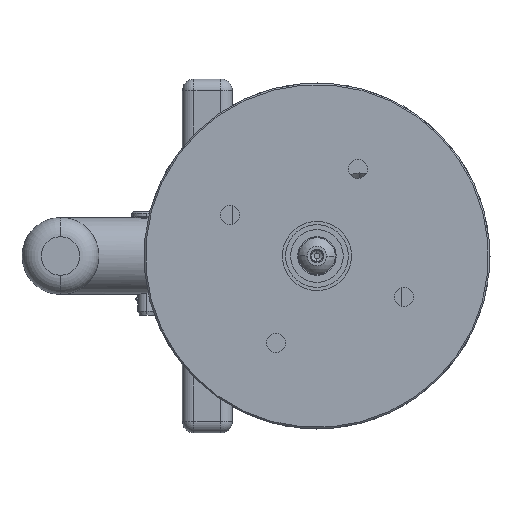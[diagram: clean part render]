
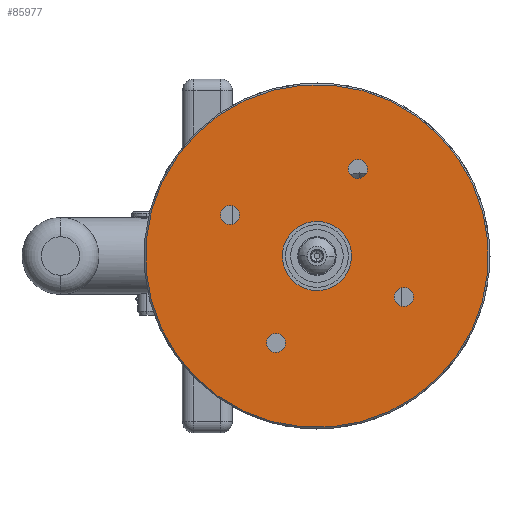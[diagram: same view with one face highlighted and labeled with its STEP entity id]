
A CAD part, left-side view. The second image highlights one B-rep face of the part: STEP entity #85977.
In plain terms, the highlighted planar face has unit normal (-1, 0, 0).
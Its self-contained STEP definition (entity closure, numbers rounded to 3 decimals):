
#420 = CARTESIAN_POINT ( 'NONE',  ( -48.8, -0.615, -10.657 ) ) ;
#646 = DIRECTION ( 'NONE',  ( 0., 0.426, -0.905 ) ) ;
#1056 = DIRECTION ( 'NONE',  ( -1., 0., 0. ) ) ;
#1498 = AXIS2_PLACEMENT_3D ( 'NONE', #35845, #1056, #42383 ) ;
#1545 = CARTESIAN_POINT ( 'NONE',  ( -48.8, 11.343, 22.615 ) ) ;
#1634 = ORIENTED_EDGE ( 'NONE', *, *, #85178, .F. ) ;
#3461 = DIRECTION ( 'NONE',  ( 0., 0.426, -0.905 ) ) ;
#3731 = CIRCLE ( 'NONE', #5201, 44.6 ) ;
#4034 = FACE_OUTER_BOUND ( 'NONE', #77536, .T. ) ;
#5201 = AXIS2_PLACEMENT_3D ( 'NONE', #24024, #79729, #8954 ) ;
#5574 = ORIENTED_EDGE ( 'NONE', *, *, #58549, .F. ) ;
#6891 = DIRECTION ( 'NONE',  ( -1., 0., 0. ) ) ;
#7023 = CIRCLE ( 'NONE', #91669, 44.6 ) ;
#7147 = DIRECTION ( 'NONE',  ( -1., 0., 0. ) ) ;
#7427 = CARTESIAN_POINT ( 'NONE',  ( -48.8, 22., 0. ) ) ;
#8954 = DIRECTION ( 'NONE',  ( 0., 0.426, -0.905 ) ) ;
#9497 = DIRECTION ( 'NONE',  ( 0., -0.426, 0.905 ) ) ;
#9649 = DIRECTION ( 'NONE',  ( -1., 0., 0. ) ) ;
#11881 = ORIENTED_EDGE ( 'NONE', *, *, #56253, .F. ) ;
#12595 = CARTESIAN_POINT ( 'NONE',  ( -48.8, 41.011, -40.345 ) ) ;
#16872 = CARTESIAN_POINT ( 'NONE',  ( -48.8, 22., 0. ) ) ;
#19451 = AXIS2_PLACEMENT_3D ( 'NONE', #88618, #46150, #46477 ) ;
#19821 = VERTEX_POINT ( 'NONE', #88514 ) ;
#21790 = VERTEX_POINT ( 'NONE', #72004 ) ;
#22771 = FACE_BOUND ( 'NONE', #68706, .T. ) ;
#23861 = CARTESIAN_POINT ( 'NONE',  ( -48.8, 11.343, 22.615 ) ) ;
#24024 = CARTESIAN_POINT ( 'NONE',  ( -48.8, 22., 0. ) ) ;
#26224 = EDGE_CURVE ( 'NONE', #67474, #36306, #49209, .T. ) ;
#26541 = VERTEX_POINT ( 'NONE', #73810 ) ;
#28024 = ORIENTED_EDGE ( 'NONE', *, *, #70487, .F. ) ;
#29039 = CARTESIAN_POINT ( 'NONE',  ( -48.8, 22., 0. ) ) ;
#30135 = DIRECTION ( 'NONE',  ( 1., 0., 0. ) ) ;
#30738 = ORIENTED_EDGE ( 'NONE', *, *, #61061, .F. ) ;
#30861 = EDGE_LOOP ( 'NONE', ( #11881, #30738 ) ) ;
#30923 = DIRECTION ( 'NONE',  ( -1., 0., 0. ) ) ;
#31772 = AXIS2_PLACEMENT_3D ( 'NONE', #79445, #44430, #64537 ) ;
#34487 = CARTESIAN_POINT ( 'NONE',  ( -48.8, 44.615, 10.657 ) ) ;
#35128 = CARTESIAN_POINT ( 'NONE',  ( -48.8, 31.591, -20.353 ) ) ;
#35729 = DIRECTION ( 'NONE',  ( 0., 0.426, -0.905 ) ) ;
#35730 = CARTESIAN_POINT ( 'NONE',  ( -48.8, 43.549, 12.918 ) ) ;
#35830 = CARTESIAN_POINT ( 'NONE',  ( -48.8, 2.989, 40.345 ) ) ;
#35845 = CARTESIAN_POINT ( 'NONE',  ( -48.8, -0.615, -10.657 ) ) ;
#36253 = VERTEX_POINT ( 'NONE', #41905 ) ;
#36306 = VERTEX_POINT ( 'NONE', #51178 ) ;
#37298 = AXIS2_PLACEMENT_3D ( 'NONE', #7427, #7147, #35729 ) ;
#38706 = CIRCLE ( 'NONE', #85952, 9. ) ;
#38790 = ORIENTED_EDGE ( 'NONE', *, *, #46751, .T. ) ;
#39289 = EDGE_CURVE ( 'NONE', #71977, #62029, #3731, .T. ) ;
#40157 = AXIS2_PLACEMENT_3D ( 'NONE', #1545, #65458, #646 ) ;
#41495 = FACE_BOUND ( 'NONE', #74045, .T. ) ;
#41905 = CARTESIAN_POINT ( 'NONE',  ( -48.8, 12.409, 20.353 ) ) ;
#42383 = DIRECTION ( 'NONE',  ( 0., 0.426, -0.905 ) ) ;
#42916 = EDGE_CURVE ( 'NONE', #69197, #26541, #66913, .T. ) ;
#43226 = DIRECTION ( 'NONE',  ( 0., 0.426, -0.905 ) ) ;
#44430 = DIRECTION ( 'NONE',  ( -1., 0., 0. ) ) ;
#45032 = CARTESIAN_POINT ( 'NONE',  ( -48.8, 33.722, -24.876 ) ) ;
#45765 = CIRCLE ( 'NONE', #1498, 2.5 ) ;
#45850 = CIRCLE ( 'NONE', #19451, 2.5 ) ;
#46044 = DIRECTION ( 'NONE',  ( 0., -0.426, 0.905 ) ) ;
#46150 = DIRECTION ( 'NONE',  ( -1., 0., 0. ) ) ;
#46477 = DIRECTION ( 'NONE',  ( 0., 0.426, -0.905 ) ) ;
#46512 = ORIENTED_EDGE ( 'NONE', *, *, #87115, .F. ) ;
#46751 = EDGE_CURVE ( 'NONE', #26541, #69197, #38706, .T. ) ;
#47631 = CARTESIAN_POINT ( 'NONE',  ( -48.8, -1.681, -8.395 ) ) ;
#48446 = DIRECTION ( 'NONE',  ( 0., 0.426, -0.905 ) ) ;
#49209 = CIRCLE ( 'NONE', #66892, 2.5 ) ;
#50008 = PLANE ( 'NONE',  #37298 ) ;
#51043 = DIRECTION ( 'NONE',  ( 0., 0.426, -0.905 ) ) ;
#51178 = CARTESIAN_POINT ( 'NONE',  ( -48.8, 45.681, 8.395 ) ) ;
#52808 = CIRCLE ( 'NONE', #40157, 2.5 ) ;
#56253 = EDGE_CURVE ( 'NONE', #19821, #88111, #45765, .T. ) ;
#58549 = EDGE_CURVE ( 'NONE', #36306, #67474, #45850, .T. ) ;
#58589 = EDGE_LOOP ( 'NONE', ( #1634, #28024 ) ) ;
#59001 = DIRECTION ( 'NONE',  ( 1., 0., 0. ) ) ;
#60146 = DIRECTION ( 'NONE',  ( -1., 0., 0. ) ) ;
#60782 = DIRECTION ( 'NONE',  ( 0., 0.426, -0.905 ) ) ;
#61061 = EDGE_CURVE ( 'NONE', #88111, #19821, #71814, .T. ) ;
#61068 = CIRCLE ( 'NONE', #72444, 2.5 ) ;
#61082 = CARTESIAN_POINT ( 'NONE',  ( -48.8, 32.657, -22.615 ) ) ;
#61491 = VERTEX_POINT ( 'NONE', #35128 ) ;
#62029 = VERTEX_POINT ( 'NONE', #12595 ) ;
#64025 = EDGE_LOOP ( 'NONE', ( #5574, #85440 ) ) ;
#64537 = DIRECTION ( 'NONE',  ( 0., 0.426, -0.905 ) ) ;
#64787 = EDGE_CURVE ( 'NONE', #62029, #71977, #7023, .T. ) ;
#65458 = DIRECTION ( 'NONE',  ( -1., 0., 0. ) ) ;
#66892 = AXIS2_PLACEMENT_3D ( 'NONE', #34487, #69799, #48446 ) ;
#66913 = CIRCLE ( 'NONE', #80235, 9. ) ;
#67016 = FACE_BOUND ( 'NONE', #58589, .T. ) ;
#67474 = VERTEX_POINT ( 'NONE', #35730 ) ;
#68706 = EDGE_LOOP ( 'NONE', ( #88513, #38790 ) ) ;
#69197 = VERTEX_POINT ( 'NONE', #86315 ) ;
#69799 = DIRECTION ( 'NONE',  ( -1., 0., 0. ) ) ;
#70487 = EDGE_CURVE ( 'NONE', #61491, #72505, #91187, .T. ) ;
#71814 = CIRCLE ( 'NONE', #78962, 2.5 ) ;
#71977 = VERTEX_POINT ( 'NONE', #35830 ) ;
#72004 = CARTESIAN_POINT ( 'NONE',  ( -48.8, 10.278, 24.876 ) ) ;
#72444 = AXIS2_PLACEMENT_3D ( 'NONE', #23861, #30923, #51043 ) ;
#72505 = VERTEX_POINT ( 'NONE', #45032 ) ;
#73810 = CARTESIAN_POINT ( 'NONE',  ( -48.8, 25.836, -8.141 ) ) ;
#73880 = CIRCLE ( 'NONE', #80635, 2.5 ) ;
#74045 = EDGE_LOOP ( 'NONE', ( #46512, #88374 ) ) ;
#75959 = FACE_BOUND ( 'NONE', #30861, .T. ) ;
#77023 = FACE_BOUND ( 'NONE', #64025, .T. ) ;
#77536 = EDGE_LOOP ( 'NONE', ( #81048, #80140 ) ) ;
#78962 = AXIS2_PLACEMENT_3D ( 'NONE', #420, #9649, #3461 ) ;
#79445 = CARTESIAN_POINT ( 'NONE',  ( -48.8, 32.657, -22.615 ) ) ;
#79729 = DIRECTION ( 'NONE',  ( -1., 0., 0. ) ) ;
#80140 = ORIENTED_EDGE ( 'NONE', *, *, #64787, .T. ) ;
#80141 = CARTESIAN_POINT ( 'NONE',  ( -48.8, 22., 0. ) ) ;
#80235 = AXIS2_PLACEMENT_3D ( 'NONE', #16872, #30135, #9497 ) ;
#80635 = AXIS2_PLACEMENT_3D ( 'NONE', #61082, #60146, #60782 ) ;
#81048 = ORIENTED_EDGE ( 'NONE', *, *, #39289, .T. ) ;
#84947 = EDGE_CURVE ( 'NONE', #21790, #36253, #52808, .T. ) ;
#85178 = EDGE_CURVE ( 'NONE', #72505, #61491, #73880, .T. ) ;
#85440 = ORIENTED_EDGE ( 'NONE', *, *, #26224, .F. ) ;
#85952 = AXIS2_PLACEMENT_3D ( 'NONE', #80141, #59001, #46044 ) ;
#85977 = ADVANCED_FACE ( 'NONE', ( #67016, #41495, #77023, #75959, #22771, #4034 ), #50008, .T. ) ;
#86315 = CARTESIAN_POINT ( 'NONE',  ( -48.8, 18.164, 8.141 ) ) ;
#87115 = EDGE_CURVE ( 'NONE', #36253, #21790, #61068, .T. ) ;
#88111 = VERTEX_POINT ( 'NONE', #47631 ) ;
#88374 = ORIENTED_EDGE ( 'NONE', *, *, #84947, .F. ) ;
#88513 = ORIENTED_EDGE ( 'NONE', *, *, #42916, .T. ) ;
#88514 = CARTESIAN_POINT ( 'NONE',  ( -48.8, 0.451, -12.918 ) ) ;
#88618 = CARTESIAN_POINT ( 'NONE',  ( -48.8, 44.615, 10.657 ) ) ;
#91187 = CIRCLE ( 'NONE', #31772, 2.5 ) ;
#91669 = AXIS2_PLACEMENT_3D ( 'NONE', #29039, #6891, #43226 ) ;
